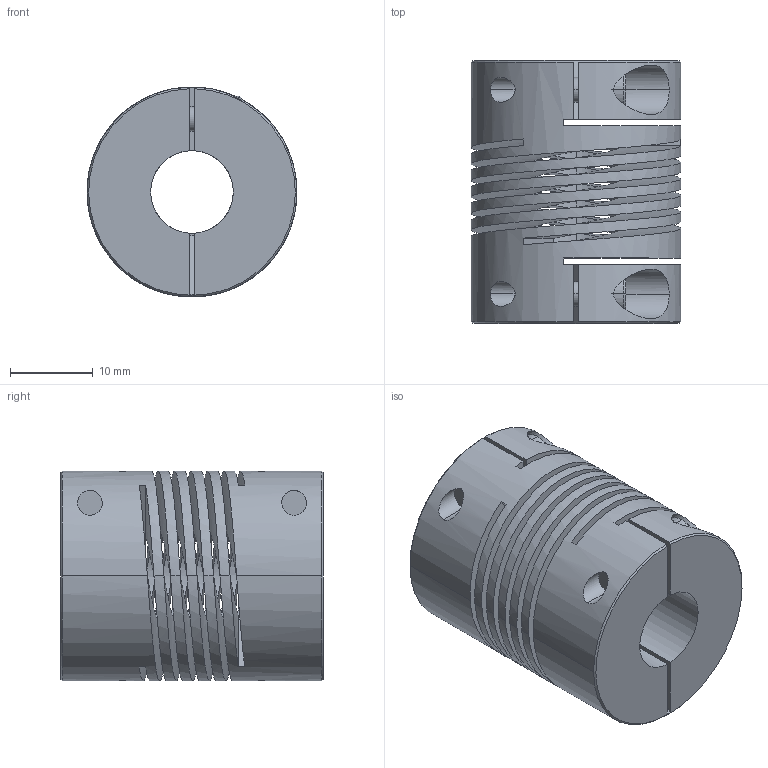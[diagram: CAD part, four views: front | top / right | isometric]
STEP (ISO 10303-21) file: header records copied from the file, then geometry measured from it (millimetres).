
FILE_DESCRIPTION((''),'2;1');
FILE_NAME('725_25','2006-12-05T',('Gary Melling'),(''),'PRO/ENGINEER BY PARAMETRIC TECHNOLOGY CORPORATION, 2006240','PRO/ENGINEER BY PARAMETRIC TECHNOLOGY CORPORATION, 2006240','');
FILE_SCHEMA(('CONFIG_CONTROL_DESIGN'));
Length unit declared in the file: millimetre
Products named in the file (1): 725_25
Bounding box: 25.4 x 31.8 x 25.4 mm (x, y, z)
Volume: 10722.3 mm3; surface area: 10389.2 mm2
Topology: 1 solids, 1 shells, 107 faces, 301 edges, 198 vertices
Faces by surface type: plane 50, cylinder 45, bspline 6, cone 6
Entity records: 5373 total; most frequent: CARTESIAN_POINT 2638, ORIENTED_EDGE 602, DIRECTION 499, EDGE_CURVE 301, VERTEX_POINT 198, AXIS2_PLACEMENT_3D 167, VECTOR 165, LINE 165
